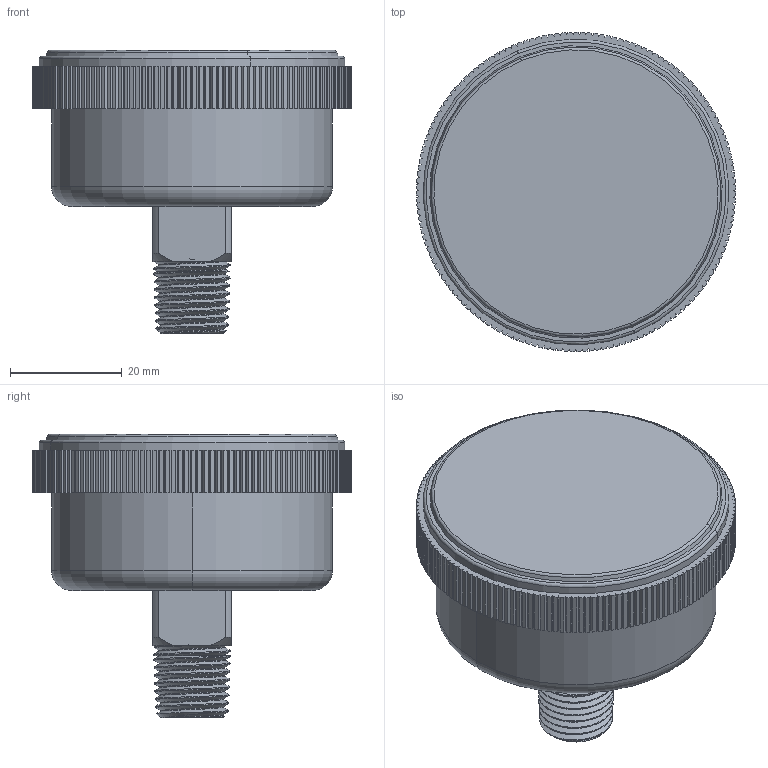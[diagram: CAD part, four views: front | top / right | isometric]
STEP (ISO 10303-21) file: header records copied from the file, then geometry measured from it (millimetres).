
FILE_DESCRIPTION (( 'STEP AP203' ), '1' );
FILE_NAME ('C20-NT.STEP', '2025-03-04T19:25:09', ( '' ), ( '' ), 'SwSTEP 2.0', 'SolidWorks 2023', '' );
FILE_SCHEMA (( 'CONFIG_CONTROL_DESIGN' ));
Length unit declared in the file: millimetre
Products named in the file (1): C20-NT
Bounding box: 57.2 x 57.2 x 50.8 mm (x, y, z)
Volume: 18211.6 mm3; surface area: 24041 mm2
Topology: 4 solids, 4 shells, 619 faces, 1755 edges, 1148 vertices
Faces by surface type: plane 332, cylinder 187, cone 68, torus 26, bspline 6
Entity records: 32920 total; most frequent: CARTESIAN_POINT 16556, ORIENTED_EDGE 3510, DIRECTION 3342, EDGE_CURVE 1755, VECTOR 1200, LINE 1200, VERTEX_POINT 1148, AXIS2_PLACEMENT_3D 1071
